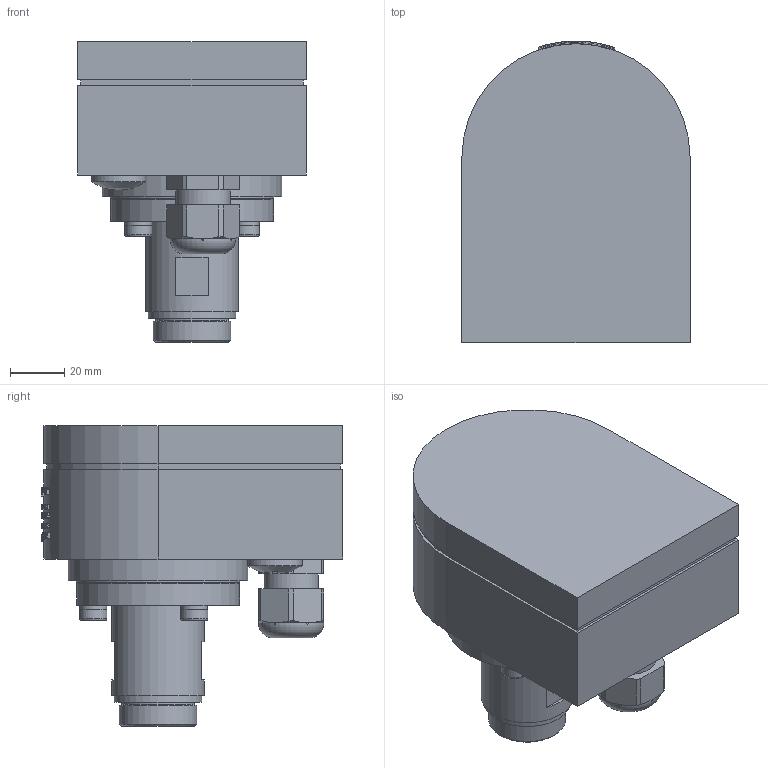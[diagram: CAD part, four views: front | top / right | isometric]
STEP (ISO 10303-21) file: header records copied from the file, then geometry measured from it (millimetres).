
FILE_DESCRIPTION(/* description */ (''),/* implementation_level */ '2;1');
FILE_NAME(/* name */ 'P:\ILC\LC-L-MA\LC-L-MA.stp',/* time_stamp */ '2020-06-05T12:43:26+02:00',/* author */ ('neufeld'),/* organization */ (''),/* preprocessor_version */ 'ST-DEVELOPER v17',/* originating_system */ 'Autodesk Inventor 2019',/* authorisation */ '');
FILE_SCHEMA (('AUTOMOTIVE_DESIGN { 1 0 10303 214 3 1 1 }'));
Products named in the file (1): LC-L-MA_AG-Kunde
Bounding box: 84 x 111 x 110.5 mm (x, y, z)
Volume: 512511.9 mm3; surface area: 50076.8 mm2
Topology: 1 solids, 2 shells, 1198 faces, 3260 edges, 2187 vertices
Faces by surface type: plane 706, bspline 348, cylinder 125, cone 12, torus 7
Full cylindrical faces by diameter (mm): 6 x3, 6.7 x3, 10 x3, 10.9 x1, 13.5 x1, 20 x2, 22.2 x1, 26.7 x1, 28.1 x1, 28.45 x1, 28.81 x1, 32.15 x1, 34 x1, 36.8 x1, 55.551 x1, 60 x1, 66 x1
Entity records: 49567 total; most frequent: CARTESIAN_POINT 20713, ORIENTED_EDGE 6498, DIRECTION 5046, EDGE_CURVE 3249, VERTEX_POINT 2171, AXIS2_PLACEMENT_3D 1739, LINE 1568, VECTOR 1568
